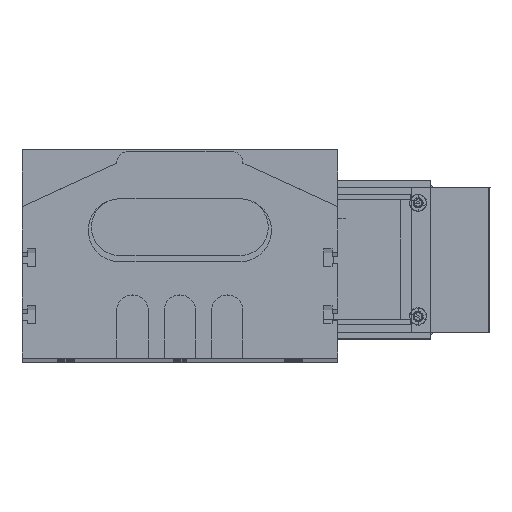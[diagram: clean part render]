
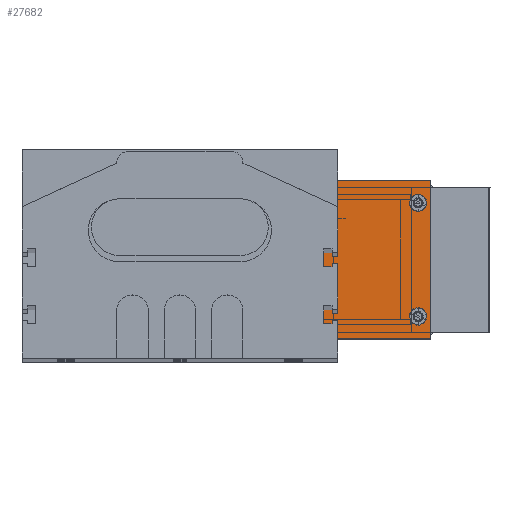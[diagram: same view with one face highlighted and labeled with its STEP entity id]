
A CAD part, top view. The second image highlights one B-rep face of the part: STEP entity #27682.
In plain terms, the highlighted planar face has unit normal (0, 0, 1) as drawn and (0, -1, 0) by its records, which use the part's own axes.
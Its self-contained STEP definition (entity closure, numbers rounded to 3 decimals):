
#332 = CARTESIAN_POINT ( 'NONE',  ( 20.2, -2., -15.25 ) ) ;
#368 = CARTESIAN_POINT ( 'NONE',  ( -39., -2., 7.25 ) ) ;
#393 = CARTESIAN_POINT ( 'NONE',  ( -39., -2., 12.75 ) ) ;
#502 = CARTESIAN_POINT ( 'NONE',  ( -39., -2., -10. ) ) ;
#508 = CIRCLE ( 'NONE', #553, 2.75 ) ;
#551 = DIRECTION ( 'NONE',  ( 0., 0., -1. ) ) ;
#552 = DIRECTION ( 'NONE',  ( 0., -1., 0. ) ) ;
#553 = AXIS2_PLACEMENT_3D ( 'NONE', #502, #552, #551 ) ;
#570 = CARTESIAN_POINT ( 'NONE',  ( 20.2, -2., -20.75 ) ) ;
#595 = CARTESIAN_POINT ( 'NONE',  ( -39., -2., -7.25 ) ) ;
#596 = DIRECTION ( 'NONE',  ( 0., 0., -1. ) ) ;
#598 = DIRECTION ( 'NONE',  ( 0., -1., 0. ) ) ;
#599 = AXIS2_PLACEMENT_3D ( 'NONE', #616, #598, #596 ) ;
#605 = CIRCLE ( 'NONE', #599, 2.75 ) ;
#616 = CARTESIAN_POINT ( 'NONE',  ( -39., -2., 10. ) ) ;
#627 = CARTESIAN_POINT ( 'NONE',  ( -39., -2., -12.75 ) ) ;
#631 = CIRCLE ( 'NONE', #676, 2.75 ) ;
#674 = DIRECTION ( 'NONE',  ( 0., 0., -1. ) ) ;
#675 = DIRECTION ( 'NONE',  ( 0., -1., 0. ) ) ;
#676 = AXIS2_PLACEMENT_3D ( 'NONE', #678, #675, #674 ) ;
#678 = CARTESIAN_POINT ( 'NONE',  ( 20.2, -2., -18. ) ) ;
#769 = CARTESIAN_POINT ( 'NONE',  ( 20.2, -2., 15.25 ) ) ;
#4434 = CARTESIAN_POINT ( 'NONE',  ( 20.2, -2., 20.75 ) ) ;
#4441 = DIRECTION ( 'NONE',  ( 0., 0., -1. ) ) ;
#4442 = DIRECTION ( 'NONE',  ( 0., -1., 0. ) ) ;
#4443 = CARTESIAN_POINT ( 'NONE',  ( 20.2, -2., 18. ) ) ;
#4450 = CIRCLE ( 'NONE', #4455, 2.75 ) ;
#4455 = AXIS2_PLACEMENT_3D ( 'NONE', #4443, #4442, #4441 ) ;
#4497 = AXIS2_PLACEMENT_3D ( 'NONE', #4539, #4537, #4536 ) ;
#4536 = DIRECTION ( 'NONE',  ( 0., 0., -1. ) ) ;
#4537 = DIRECTION ( 'NONE',  ( 0., -1., 0. ) ) ;
#4539 = CARTESIAN_POINT ( 'NONE',  ( 20.2, -2., 18. ) ) ;
#4543 = CIRCLE ( 'NONE', #4497, 2.75 ) ;
#4581 = DIRECTION ( 'NONE',  ( 0., 0., -1. ) ) ;
#4582 = DIRECTION ( 'NONE',  ( 0., -1., 0. ) ) ;
#4583 = AXIS2_PLACEMENT_3D ( 'NONE', #4595, #4582, #4581 ) ;
#4584 = CIRCLE ( 'NONE', #4583, 2.75 ) ;
#4595 = CARTESIAN_POINT ( 'NONE',  ( 20.2, -2., -18. ) ) ;
#4816 = AXIS2_PLACEMENT_3D ( 'NONE', #4878, #4884, #4867 ) ;
#4818 = DIRECTION ( 'NONE',  ( 0., 0., -1. ) ) ;
#4819 = DIRECTION ( 'NONE',  ( 0., -1., 0. ) ) ;
#4820 = CARTESIAN_POINT ( 'NONE',  ( -39., -2., 10. ) ) ;
#4824 = FACE_OUTER_BOUND ( 'NONE', #27525, .T. ) ;
#4825 = DIRECTION ( 'NONE',  ( 0., 0., -1. ) ) ;
#4826 = CIRCLE ( 'NONE', #4830, 2.75 ) ;
#4827 = AXIS2_PLACEMENT_3D ( 'NONE', #4820, #4819, #4818 ) ;
#4830 = AXIS2_PLACEMENT_3D ( 'NONE', #4834, #4839, #4825 ) ;
#4831 = CIRCLE ( 'NONE', #4827, 2.75 ) ;
#4834 = CARTESIAN_POINT ( 'NONE',  ( -39., -2., -10. ) ) ;
#4839 = DIRECTION ( 'NONE',  ( 0., -1., 0. ) ) ;
#4867 = DIRECTION ( 'NONE',  ( 0., 0., 1. ) ) ;
#4877 = FACE_BOUND ( 'NONE', #27566, .T. ) ;
#4878 = CARTESIAN_POINT ( 'NONE',  ( 37., -2., -25. ) ) ;
#4879 = PLANE ( 'NONE',  #4816 ) ;
#4880 = FACE_BOUND ( 'NONE', #27950, .T. ) ;
#4881 = FACE_BOUND ( 'NONE', #27974, .T. ) ;
#4884 = DIRECTION ( 'NONE',  ( 0., 1., 0. ) ) ;
#4888 = FACE_BOUND ( 'NONE', #27802, .T. ) ;
#5045 = CARTESIAN_POINT ( 'NONE',  ( 37., -2., -25. ) ) ;
#5050 = CARTESIAN_POINT ( 'NONE',  ( 24., -2., 25. ) ) ;
#5051 = LINE ( 'NONE', #5119, #5118 ) ;
#5066 = CARTESIAN_POINT ( 'NONE',  ( 24., -2., -25. ) ) ;
#5067 = CARTESIAN_POINT ( 'NONE',  ( -42., -2., 25. ) ) ;
#5073 = CARTESIAN_POINT ( 'NONE',  ( -42., -2., -25. ) ) ;
#5098 = DIRECTION ( 'NONE',  ( -1., 0., 0. ) ) ;
#5099 = VECTOR ( 'NONE', #5098, 1000. ) ;
#5108 = LINE ( 'NONE', #5045, #5099 ) ;
#5117 = DIRECTION ( 'NONE',  ( 0., 0., 1. ) ) ;
#5118 = VECTOR ( 'NONE', #5117, 1000. ) ;
#5119 = CARTESIAN_POINT ( 'NONE',  ( -42., -2., -25. ) ) ;
#5192 = DIRECTION ( 'NONE',  ( 0., 0., -1. ) ) ;
#5193 = VECTOR ( 'NONE', #5192, 1000. ) ;
#5194 = CARTESIAN_POINT ( 'NONE',  ( 24., -2., 25. ) ) ;
#5196 = LINE ( 'NONE', #5194, #5193 ) ;
#5200 = DIRECTION ( 'NONE',  ( 1., 0., 0. ) ) ;
#5201 = VECTOR ( 'NONE', #5200, 1000. ) ;
#5202 = CARTESIAN_POINT ( 'NONE',  ( -37., -2., 25. ) ) ;
#5203 = LINE ( 'NONE', #5202, #5201 ) ;
#25257 = VERTEX_POINT ( 'NONE', #332 ) ;
#25267 = VERTEX_POINT ( 'NONE', #393 ) ;
#25280 = VERTEX_POINT ( 'NONE', #368 ) ;
#25345 = EDGE_CURVE ( 'NONE', #25367, #25391, #508, .T. ) ;
#25367 = VERTEX_POINT ( 'NONE', #595 ) ;
#25389 = VERTEX_POINT ( 'NONE', #570 ) ;
#25391 = VERTEX_POINT ( 'NONE', #627 ) ;
#25399 = EDGE_CURVE ( 'NONE', #25267, #25280, #605, .T. ) ;
#25445 = EDGE_CURVE ( 'NONE', #25257, #25389, #631, .T. ) ;
#25520 = VERTEX_POINT ( 'NONE', #769 ) ;
#27429 = EDGE_CURVE ( 'NONE', #27447, #25520, #4450, .T. ) ;
#27447 = VERTEX_POINT ( 'NONE', #4434 ) ;
#27515 = EDGE_CURVE ( 'NONE', #25520, #27447, #4543, .T. ) ;
#27519 = EDGE_CURVE ( 'NONE', #25389, #25257, #4584, .T. ) ;
#27525 = EDGE_LOOP ( 'NONE', ( #27880, #27787, #27795, #27779 ) ) ;
#27566 = EDGE_LOOP ( 'NONE', ( #28000, #28030 ) ) ;
#27669 = EDGE_CURVE ( 'NONE', #25391, #25367, #4826, .T. ) ;
#27673 = EDGE_CURVE ( 'NONE', #25280, #25267, #4831, .T. ) ;
#27682 = ADVANCED_FACE ( 'NONE', ( #4824, #4877, #4888, #4881, #4880 ), #4879, .F. ) ;
#27778 = VERTEX_POINT ( 'NONE', #5073 ) ;
#27779 = ORIENTED_EDGE ( 'NONE', *, *, #27805, .F. ) ;
#27786 = ORIENTED_EDGE ( 'NONE', *, *, #27669, .F. ) ;
#27787 = ORIENTED_EDGE ( 'NONE', *, *, #27869, .F. ) ;
#27791 = VERTEX_POINT ( 'NONE', #5067 ) ;
#27793 = VERTEX_POINT ( 'NONE', #5050 ) ;
#27795 = ORIENTED_EDGE ( 'NONE', *, *, #27796, .F. ) ;
#27796 = EDGE_CURVE ( 'NONE', #27778, #27791, #5051, .T. ) ;
#27797 = VERTEX_POINT ( 'NONE', #5066 ) ;
#27800 = ORIENTED_EDGE ( 'NONE', *, *, #25345, .F. ) ;
#27802 = EDGE_LOOP ( 'NONE', ( #27786, #27800 ) ) ;
#27805 = EDGE_CURVE ( 'NONE', #27797, #27778, #5108, .T. ) ;
#27860 = ORIENTED_EDGE ( 'NONE', *, *, #27429, .F. ) ;
#27869 = EDGE_CURVE ( 'NONE', #27791, #27793, #5203, .T. ) ;
#27871 = EDGE_CURVE ( 'NONE', #27793, #27797, #5196, .T. ) ;
#27880 = ORIENTED_EDGE ( 'NONE', *, *, #27871, .F. ) ;
#27886 = ORIENTED_EDGE ( 'NONE', *, *, #25445, .F. ) ;
#27925 = ORIENTED_EDGE ( 'NONE', *, *, #27515, .F. ) ;
#27950 = EDGE_LOOP ( 'NONE', ( #27925, #27860 ) ) ;
#27974 = EDGE_LOOP ( 'NONE', ( #28037, #27886 ) ) ;
#28000 = ORIENTED_EDGE ( 'NONE', *, *, #27673, .F. ) ;
#28030 = ORIENTED_EDGE ( 'NONE', *, *, #25399, .F. ) ;
#28037 = ORIENTED_EDGE ( 'NONE', *, *, #27519, .F. ) ;
